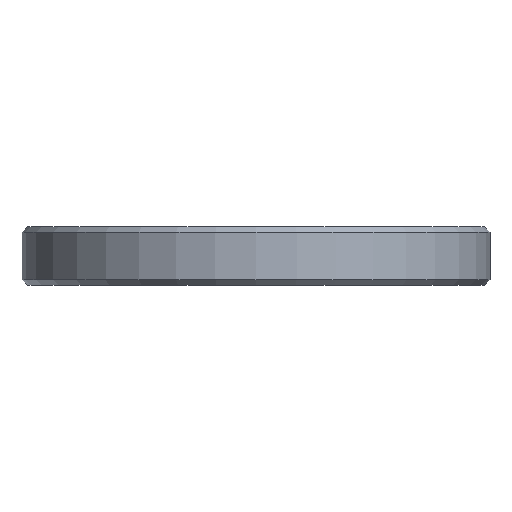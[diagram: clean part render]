
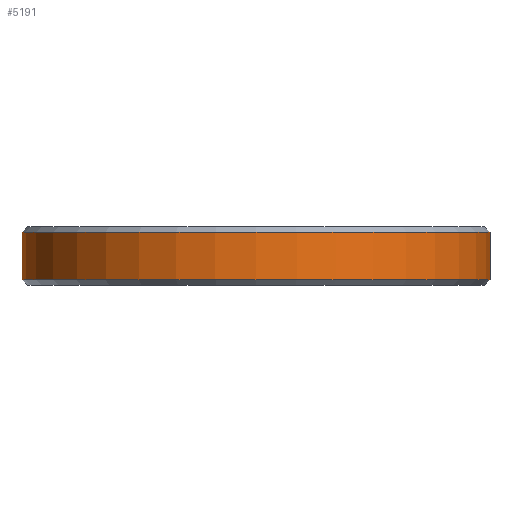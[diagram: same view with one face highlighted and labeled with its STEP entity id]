
A CAD part, front view. The second image highlights one B-rep face of the part: STEP entity #5191.
In plain terms, the highlighted cylindrical face has radius 12.5 mm (diameter 25 mm), a full revolution.
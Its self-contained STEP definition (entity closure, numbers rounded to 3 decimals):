
#23=CYLINDRICAL_SURFACE('',#5470,12.5);
#40=CIRCLE('',#5465,12.5);
#44=CIRCLE('',#5471,12.5);
#304=FACE_OUTER_BOUND('',#566,.T.);
#566=EDGE_LOOP('',(#4400,#4401,#4402,#4403));
#1293=LINE('',#8175,#2004);
#2004=VECTOR('',#6698,12.5);
#2480=VERTEX_POINT('',#8158);
#2486=VERTEX_POINT('',#8173);
#3196=EDGE_CURVE('',#2480,#2480,#40,.T.);
#3203=EDGE_CURVE('',#2486,#2486,#44,.T.);
#3204=EDGE_CURVE('',#2486,#2480,#1293,.T.);
#4400=ORIENTED_EDGE('',*,*,#3203,.F.);
#4401=ORIENTED_EDGE('',*,*,#3204,.T.);
#4402=ORIENTED_EDGE('',*,*,#3196,.F.);
#4403=ORIENTED_EDGE('',*,*,#3204,.F.);
#5191=ADVANCED_FACE('',(#304),#23,.T.);
#5465=AXIS2_PLACEMENT_3D('',#8159,#6681,#6682);
#5470=AXIS2_PLACEMENT_3D('',#8172,#6694,#6695);
#5471=AXIS2_PLACEMENT_3D('',#8174,#6696,#6697);
#6681=DIRECTION('center_axis',(0.,0.,-1.));
#6682=DIRECTION('ref_axis',(1.,0.,0.));
#6694=DIRECTION('center_axis',(0.,0.,1.));
#6695=DIRECTION('ref_axis',(1.,0.,0.));
#6696=DIRECTION('center_axis',(0.,0.,1.));
#6697=DIRECTION('ref_axis',(1.,0.,0.));
#6698=DIRECTION('',(0.,0.,-1.));
#8158=CARTESIAN_POINT('',(-12.5,0.,0.3));
#8159=CARTESIAN_POINT('Origin',(0.,0.,0.3));
#8172=CARTESIAN_POINT('Origin',(0.,0.,0.));
#8173=CARTESIAN_POINT('',(-12.5,0.,2.825));
#8174=CARTESIAN_POINT('Origin',(0.,0.,2.825));
#8175=CARTESIAN_POINT('',(-12.5,0.,0.));
